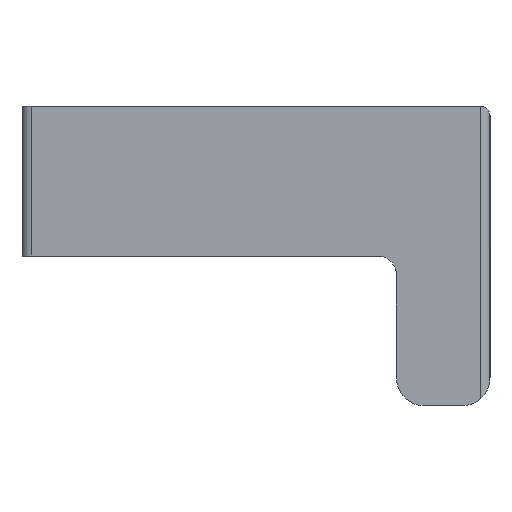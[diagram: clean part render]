
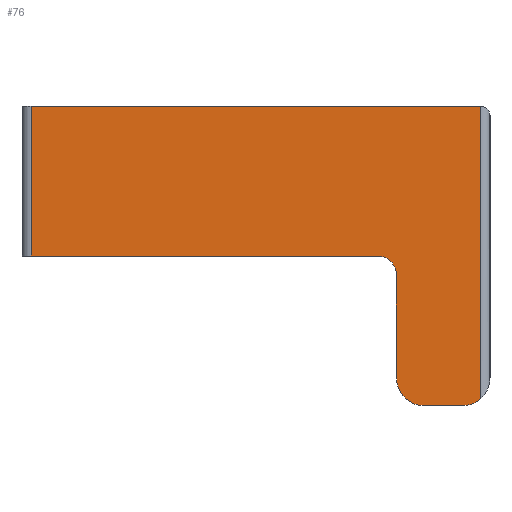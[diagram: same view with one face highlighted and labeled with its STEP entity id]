
A CAD part, left-side view. The second image highlights one B-rep face of the part: STEP entity #76.
In plain terms, the highlighted planar face has unit normal (-1, 0, 0).
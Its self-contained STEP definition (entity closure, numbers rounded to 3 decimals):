
#76 = ADVANCED_FACE( '', ( #153 ), #154, .F. );
#153 = FACE_OUTER_BOUND( '', #224, .T. );
#154 = PLANE( '', #225 );
#224 = EDGE_LOOP( '', ( #371, #372, #373, #374, #375, #376, #377, #378, #379 ) );
#225 = AXIS2_PLACEMENT_3D( '', #380, #381, #382 );
#371 = ORIENTED_EDGE( '', *, *, #437, .T. );
#372 = ORIENTED_EDGE( '', *, *, #446, .F. );
#373 = ORIENTED_EDGE( '', *, *, #405, .T. );
#374 = ORIENTED_EDGE( '', *, *, #462, .F. );
#375 = ORIENTED_EDGE( '', *, *, #463, .F. );
#376 = ORIENTED_EDGE( '', *, *, #452, .F. );
#377 = ORIENTED_EDGE( '', *, *, #418, .F. );
#378 = ORIENTED_EDGE( '', *, *, #410, .F. );
#379 = ORIENTED_EDGE( '', *, *, #449, .F. );
#380 = CARTESIAN_POINT( '', ( -7.5, -24.5, 3.5 ) );
#381 = DIRECTION( '', ( 1., 0., 0. ) );
#382 = DIRECTION( '', ( 0., 0., -1. ) );
#405 = EDGE_CURVE( '', #469, #470, #471, .T. );
#410 = EDGE_CURVE( '', #478, #479, #480, .T. );
#418 = EDGE_CURVE( '', #479, #493, #494, .T. );
#437 = EDGE_CURVE( '', #524, #522, #525, .T. );
#446 = EDGE_CURVE( '', #469, #522, #536, .T. );
#449 = EDGE_CURVE( '', #524, #478, #539, .T. );
#452 = EDGE_CURVE( '', #493, #542, #543, .T. );
#462 = EDGE_CURVE( '', #555, #470, #556, .T. );
#463 = EDGE_CURVE( '', #542, #555, #557, .T. );
#469 = VERTEX_POINT( '', #563 );
#470 = VERTEX_POINT( '', #564 );
#471 = CIRCLE( '', #565, 1. );
#478 = VERTEX_POINT( '', #574 );
#479 = VERTEX_POINT( '', #575 );
#480 = LINE( '', #576, #577 );
#493 = VERTEX_POINT( '', #606 );
#494 = CIRCLE( '', #607, 1.5 );
#522 = VERTEX_POINT( '', #642 );
#524 = VERTEX_POINT( '', #644 );
#525 = LINE( '', #645, #646 );
#536 = LINE( '', #659, #660 );
#539 = LINE( '', #664, #665 );
#542 = VERTEX_POINT( '', #669 );
#543 = LINE( '', #670, #671 );
#555 = VERTEX_POINT( '', #687 );
#556 = LINE( '', #688, #689 );
#557 = CIRCLE( '', #690, 1.5 );
#563 = CARTESIAN_POINT( '', ( -7.5, -19., -4. ) );
#564 = CARTESIAN_POINT( '', ( -7.5, -20., -5. ) );
#565 = AXIS2_PLACEMENT_3D( '', #696, #697, #698 );
#574 = CARTESIAN_POINT( '', ( -7.5, -24.5, 4. ) );
#575 = CARTESIAN_POINT( '', ( -7.5, -24.5, -11.618 ) );
#576 = CARTESIAN_POINT( '', ( -7.5, -24.5, 20. ) );
#577 = VECTOR( '', #704, 1000. );
#606 = CARTESIAN_POINT( '', ( -7.5, -23.5, -12. ) );
#607 = AXIS2_PLACEMENT_3D( '', #713, #714, #715 );
#642 = CARTESIAN_POINT( '', ( -7.5, -0.5, -4. ) );
#644 = CARTESIAN_POINT( '', ( -7.5, -0.5, 4. ) );
#645 = CARTESIAN_POINT( '', ( -7.5, -0.5, 20. ) );
#646 = VECTOR( '', #741, 1000. );
#659 = CARTESIAN_POINT( '', ( -7.5, -19., -4. ) );
#660 = VECTOR( '', #753, 1000. );
#664 = CARTESIAN_POINT( '', ( -7.5, 0., 4. ) );
#665 = VECTOR( '', #755, 1000. );
#669 = CARTESIAN_POINT( '', ( -7.5, -21.5, -12. ) );
#670 = CARTESIAN_POINT( '', ( -7.5, -23.5, -12. ) );
#671 = VECTOR( '', #757, 1000. );
#687 = CARTESIAN_POINT( '', ( -7.5, -20., -10.5 ) );
#688 = CARTESIAN_POINT( '', ( -7.5, -20., -10.5 ) );
#689 = VECTOR( '', #765, 1000. );
#690 = AXIS2_PLACEMENT_3D( '', #766, #767, #768 );
#696 = CARTESIAN_POINT( '', ( -7.5, -19., -5. ) );
#697 = DIRECTION( '', ( 1., 0., 0. ) );
#698 = DIRECTION( '', ( 0., 0., -1. ) );
#704 = DIRECTION( '', ( 0., 0., -1. ) );
#713 = CARTESIAN_POINT( '', ( -7.5, -23.5, -10.5 ) );
#714 = DIRECTION( '', ( 1., 0., 0. ) );
#715 = DIRECTION( '', ( 0., 0., -1. ) );
#741 = DIRECTION( '', ( 0., 0., -1. ) );
#753 = DIRECTION( '', ( 0., 1., 0. ) );
#755 = DIRECTION( '', ( 0., -1., 0. ) );
#757 = DIRECTION( '', ( 0., 1., 0. ) );
#765 = DIRECTION( '', ( 0., 0., 1. ) );
#766 = CARTESIAN_POINT( '', ( -7.5, -21.5, -10.5 ) );
#767 = DIRECTION( '', ( 1., 0., 0. ) );
#768 = DIRECTION( '', ( 0., 0., -1. ) );
